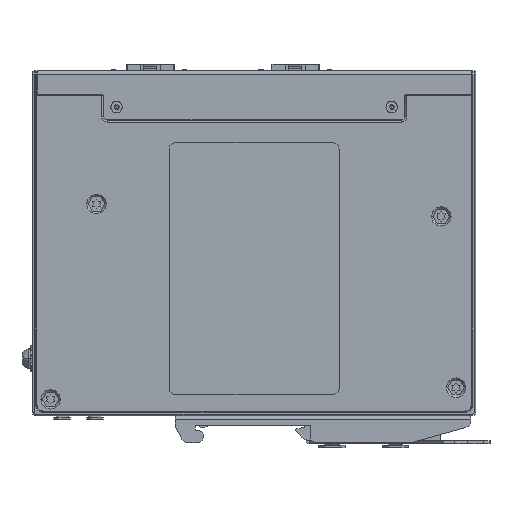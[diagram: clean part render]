
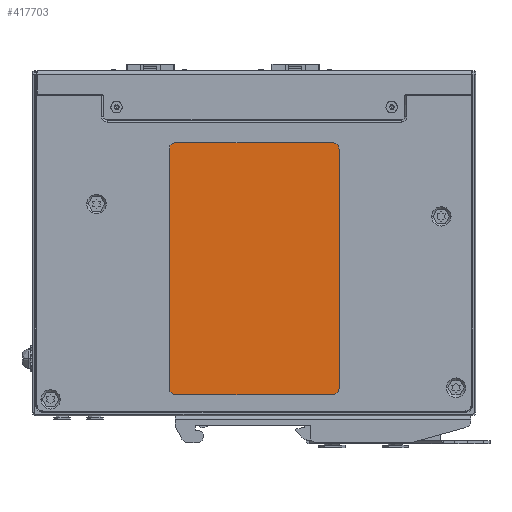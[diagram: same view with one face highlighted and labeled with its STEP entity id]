
A CAD part, front view. The second image highlights one B-rep face of the part: STEP entity #417703.
In plain terms, the highlighted planar face has unit normal (0, -1, 0).
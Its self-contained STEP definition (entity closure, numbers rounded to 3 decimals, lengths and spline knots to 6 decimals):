
#416223=DIRECTION('',(-1.,0.,0.));
#416224=VECTOR('',#416223,0.0478);
#416225=CARTESIAN_POINT('',(0.0229,-0.0078,-0.0461));
#416226=LINE('',#416225,#416224);
#416231=DIRECTION('',(0.,0.,1.));
#416232=VECTOR('',#416231,0.0728);
#416233=CARTESIAN_POINT('',(0.0249,-0.0078,-0.0441));
#416234=LINE('',#416233,#416232);
#416235=CARTESIAN_POINT('',(0.0229,-0.0078,-0.0441));
#416236=DIRECTION('',(0.,-1.,0.));
#416237=DIRECTION('',(0.,0.,-1.));
#416238=AXIS2_PLACEMENT_3D('',#416235,#416236,#416237);
#416240=CARTESIAN_POINT('',(-0.0249,-0.0078,-0.0441));
#416241=DIRECTION('',(0.,-1.,0.));
#416242=DIRECTION('',(-1.,0.,0.));
#416243=AXIS2_PLACEMENT_3D('',#416240,#416241,#416242);
#416245=CARTESIAN_POINT('',(-0.0249,-0.0078,0.0287));
#416246=DIRECTION('',(0.,-1.,0.));
#416247=DIRECTION('',(0.,0.,1.));
#416248=AXIS2_PLACEMENT_3D('',#416245,#416246,#416247);
#416250=CARTESIAN_POINT('',(0.0229,-0.0078,0.0287));
#416251=DIRECTION('',(0.,-1.,0.));
#416252=DIRECTION('',(1.,0.,0.));
#416253=AXIS2_PLACEMENT_3D('',#416250,#416251,#416252);
#416275=DIRECTION('',(1.,0.,0.));
#416276=VECTOR('',#416275,0.0478);
#416277=CARTESIAN_POINT('',(-0.0249,-0.0078,0.0307));
#416278=LINE('',#416277,#416276);
#416291=DIRECTION('',(0.,0.,1.));
#416292=VECTOR('',#416291,0.0728);
#416293=CARTESIAN_POINT('',(-0.0269,-0.0078,-0.0441));
#416294=LINE('',#416293,#416292);
#417389=CARTESIAN_POINT('',(0.0249,-0.0078,-0.0441));
#417390=VERTEX_POINT('',#417389);
#417391=CARTESIAN_POINT('',(0.0229,-0.0078,-0.0461));
#417392=VERTEX_POINT('',#417391);
#417393=CARTESIAN_POINT('',(0.0249,-0.0078,0.0287));
#417394=VERTEX_POINT('',#417393);
#417395=CARTESIAN_POINT('',(-0.0249,-0.0078,-0.0461));
#417396=VERTEX_POINT('',#417395);
#417397=CARTESIAN_POINT('',(-0.0269,-0.0078,-0.0441));
#417398=VERTEX_POINT('',#417397);
#417399=CARTESIAN_POINT('',(-0.0269,-0.0078,0.0287));
#417400=VERTEX_POINT('',#417399);
#417401=CARTESIAN_POINT('',(-0.0249,-0.0078,0.0307));
#417402=VERTEX_POINT('',#417401);
#417403=CARTESIAN_POINT('',(0.0229,-0.0078,0.0307));
#417404=VERTEX_POINT('',#417403);
#417681=CARTESIAN_POINT('',(0.,-0.0078,0.));
#417682=DIRECTION('',(0.,1.,0.));
#417683=DIRECTION('',(0.,0.,1.));
#417684=AXIS2_PLACEMENT_3D('',#417681,#417682,#417683);
#417685=PLANE('',#417684);
#417687=ORIENTED_EDGE('',*,*,#417686,.F.);
#417689=ORIENTED_EDGE('',*,*,#417688,.F.);
#417690=ORIENTED_EDGE('',*,*,#417671,.T.);
#417692=ORIENTED_EDGE('',*,*,#417691,.F.);
#417694=ORIENTED_EDGE('',*,*,#417693,.T.);
#417696=ORIENTED_EDGE('',*,*,#417695,.F.);
#417698=ORIENTED_EDGE('',*,*,#417697,.T.);
#417700=ORIENTED_EDGE('',*,*,#417699,.F.);
#417701=EDGE_LOOP('',(#417687,#417689,#417690,#417692,#417694,#417696,#417698,
#417700));
#417702=FACE_OUTER_BOUND('',#417701,.F.);
#416239=CIRCLE('',#416238,0.002);
#416244=CIRCLE('',#416243,0.002);
#416249=CIRCLE('',#416248,0.002);
#416254=CIRCLE('',#416253,0.002);
#417671=EDGE_CURVE('',#417392,#417396,#416226,.T.);
#417686=EDGE_CURVE('',#417390,#417394,#416234,.T.);
#417688=EDGE_CURVE('',#417392,#417390,#416239,.T.);
#417691=EDGE_CURVE('',#417398,#417396,#416244,.T.);
#417693=EDGE_CURVE('',#417398,#417400,#416294,.T.);
#417695=EDGE_CURVE('',#417402,#417400,#416249,.T.);
#417697=EDGE_CURVE('',#417402,#417404,#416278,.T.);
#417699=EDGE_CURVE('',#417394,#417404,#416254,.T.);
#417703=ADVANCED_FACE('',(#417702),#417685,.F.);
